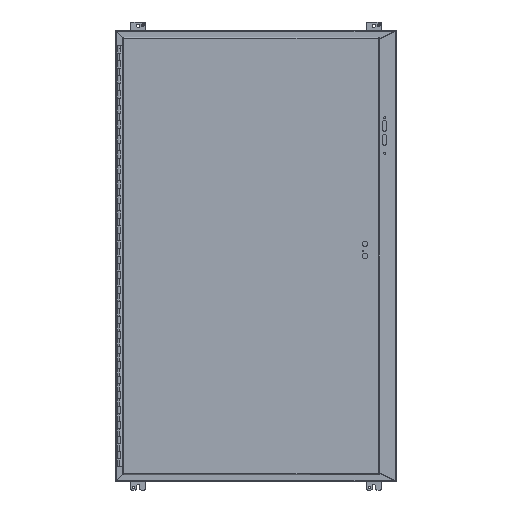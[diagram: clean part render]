
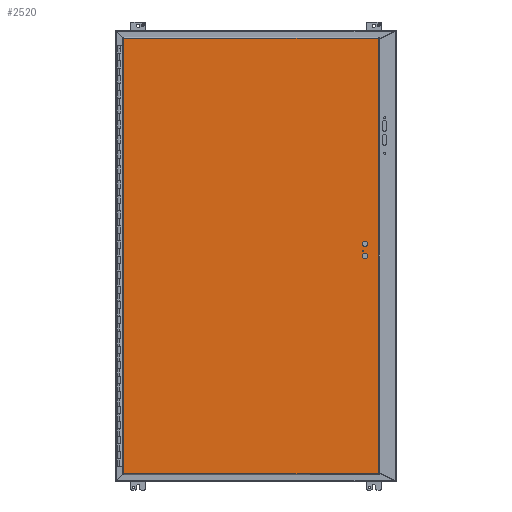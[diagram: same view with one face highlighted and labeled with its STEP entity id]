
A CAD part, front view. The second image highlights one B-rep face of the part: STEP entity #2520.
In plain terms, the highlighted planar face has unit normal (0, -1, 0).
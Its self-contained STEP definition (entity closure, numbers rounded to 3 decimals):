
#2520 = ADVANCED_FACE( '', ( #4070, #4071, #4072, #4073 ), #4074, .T. );
#4070 = FACE_BOUND( '', #8348, .T. );
#4071 = FACE_OUTER_BOUND( '', #8349, .T. );
#4072 = FACE_BOUND( '', #8350, .T. );
#4073 = FACE_BOUND( '', #8351, .T. );
#4074 = PLANE( '', #8352 );
#8348 = EDGE_LOOP( '', ( #11621 ) );
#8349 = EDGE_LOOP( '', ( #11622, #11623, #11624, #11625 ) );
#8350 = EDGE_LOOP( '', ( #11626 ) );
#8351 = EDGE_LOOP( '', ( #11627 ) );
#8352 = AXIS2_PLACEMENT_3D( '', #11628, #11629, #11630 );
#11621 = ORIENTED_EDGE( '', *, *, #18440, .T. );
#11622 = ORIENTED_EDGE( '', *, *, #18441, .F. );
#11623 = ORIENTED_EDGE( '', *, *, #18442, .T. );
#11624 = ORIENTED_EDGE( '', *, *, #18443, .F. );
#11625 = ORIENTED_EDGE( '', *, *, #18444, .F. );
#11626 = ORIENTED_EDGE( '', *, *, #18445, .T. );
#11627 = ORIENTED_EDGE( '', *, *, #18446, .T. );
#11628 = CARTESIAN_POINT( '', ( -433.388, 0., -738.988 ) );
#11629 = DIRECTION( '', ( 0., -1., 0. ) );
#11630 = DIRECTION( '', ( 0., 0., -1. ) );
#18440 = EDGE_CURVE( '', #22714, #22714, #22715, .T. );
#18441 = EDGE_CURVE( '', #22716, #22717, #22718, .T. );
#18442 = EDGE_CURVE( '', #22716, #22693, #22719, .T. );
#18443 = EDGE_CURVE( '', #22705, #22693, #22720, .T. );
#18444 = EDGE_CURVE( '', #22717, #22705, #22721, .T. );
#18445 = EDGE_CURVE( '', #22722, #22722, #22723, .T. );
#18446 = EDGE_CURVE( '', #22724, #22724, #22725, .T. );
#22693 = VERTEX_POINT( '', #26456 );
#22705 = VERTEX_POINT( '', #26498 );
#22714 = VERTEX_POINT( '', #26521 );
#22715 = CIRCLE( '', #26522, 2.769 );
#22716 = VERTEX_POINT( '', #26523 );
#22717 = VERTEX_POINT( '', #26524 );
#22718 = LINE( '', #26525, #26526 );
#22719 = LINE( '', #26527, #26528 );
#22720 = LINE( '', #26529, #26530 );
#22721 = LINE( '', #26531, #26532 );
#22722 = VERTEX_POINT( '', #26533 );
#22723 = CIRCLE( '', #26534, 8.928 );
#22724 = VERTEX_POINT( '', #26535 );
#22725 = CIRCLE( '', #26536, 8.928 );
#26456 = CARTESIAN_POINT( '', ( 430.644, 0., -736.244 ) );
#26498 = CARTESIAN_POINT( '', ( 430.644, 0., 736.244 ) );
#26521 = CARTESIAN_POINT( '', ( 382.181, 0., 17.463 ) );
#26522 = AXIS2_PLACEMENT_3D( '', #30282, #30283, #30284 );
#26523 = CARTESIAN_POINT( '', ( -430.644, 0., -736.244 ) );
#26524 = CARTESIAN_POINT( '', ( -430.644, 0., 736.244 ) );
#26525 = CARTESIAN_POINT( '', ( -430.644, 0., 736.244 ) );
#26526 = VECTOR( '', #30285, 1000. );
#26527 = CARTESIAN_POINT( '', ( 430.644, 0., -736.244 ) );
#26528 = VECTOR( '', #30286, 1000. );
#26529 = CARTESIAN_POINT( '', ( 430.644, 0., 736.244 ) );
#26530 = VECTOR( '', #30287, 1000. );
#26531 = CARTESIAN_POINT( '', ( -433.388, 0., 736.244 ) );
#26532 = VECTOR( '', #30288, 1000. );
#26533 = CARTESIAN_POINT( '', ( 394.691, 0., 0. ) );
#26534 = AXIS2_PLACEMENT_3D( '', #30289, #30290, #30291 );
#26535 = CARTESIAN_POINT( '', ( 394.691, 0., 41.275 ) );
#26536 = AXIS2_PLACEMENT_3D( '', #30292, #30293, #30294 );
#30282 = CARTESIAN_POINT( '', ( 379.413, 0., 17.463 ) );
#30283 = DIRECTION( '', ( 0., 1., 0. ) );
#30284 = DIRECTION( '', ( 1., 0., 0. ) );
#30285 = DIRECTION( '', ( 0., 0., 1. ) );
#30286 = DIRECTION( '', ( 1., 0., 0. ) );
#30287 = DIRECTION( '', ( 0., 0., -1. ) );
#30288 = DIRECTION( '', ( 1., 0., 0. ) );
#30289 = CARTESIAN_POINT( '', ( 385.763, 0., 0. ) );
#30290 = DIRECTION( '', ( 0., 1., 0. ) );
#30291 = DIRECTION( '', ( 1., 0., 0. ) );
#30292 = CARTESIAN_POINT( '', ( 385.763, 0., 41.275 ) );
#30293 = DIRECTION( '', ( 0., 1., 0. ) );
#30294 = DIRECTION( '', ( 1., 0., 0. ) );
